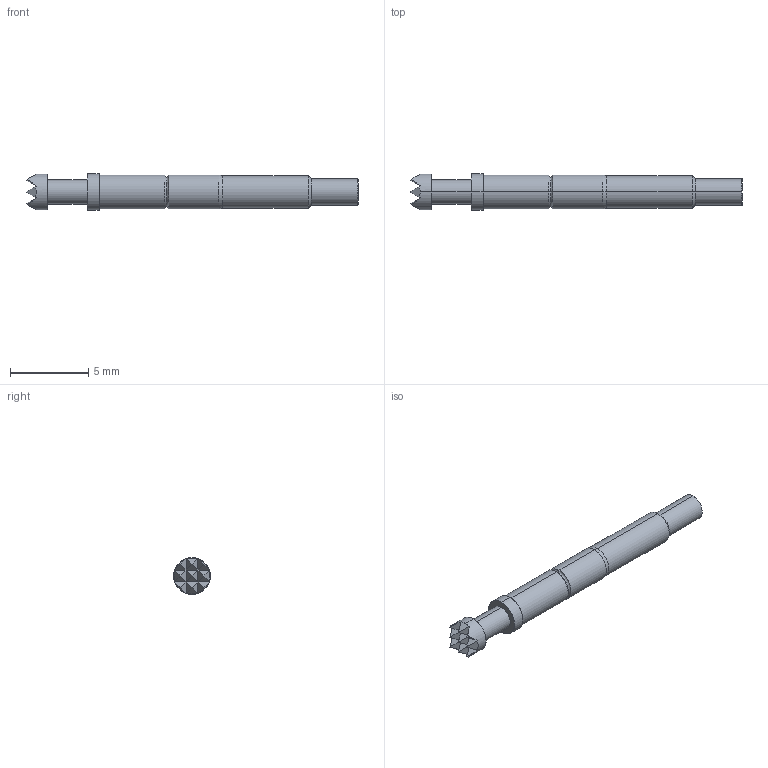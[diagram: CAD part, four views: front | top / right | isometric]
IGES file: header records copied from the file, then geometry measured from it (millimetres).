
Start section: SolidWorks IGES file using analytic representation for surfaces
Global section: file name: O:\PYLON\IGES FILES\F-S\F-S-W.IGS; native system: SolidWorks 2015; preprocessor: SolidWorks 2015; author: kgolden; date: 171024.102110; units: inch
Bounding box: 21.18 x 2.34 x 2.34 mm (x, y, z)
Surface area: 160.4 mm2 (no closed solid volume)
Topology: 0 solids, 0 shells, 65 faces, 470 edges, 470 vertices
Faces by surface type: bspline 45, revolution 20
